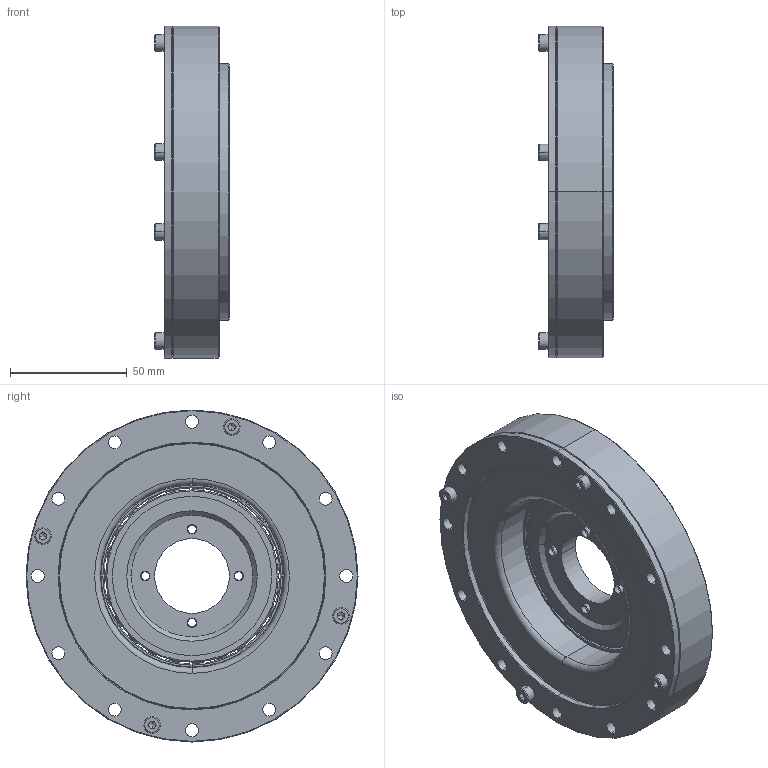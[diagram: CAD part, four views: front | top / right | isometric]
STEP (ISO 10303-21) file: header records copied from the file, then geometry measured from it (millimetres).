
FILE_DESCRIPTION((''),'2;1');
FILE_NAME('LHD-32-XXX-C-I_ASM','2022-11-11T',('700zh'),(''),'PRO/ENGINEER BY PARAMETRIC TECHNOLOGY CORPORATION, 2014200','PRO/ENGINEER BY PARAMETRIC TECHNOLOGY CORPORATION, 2014200','');
FILE_SCHEMA(('AUTOMOTIVE_DESIGN { 1 0 10303 214 1 1 1 1 }'));
Length unit declared in the file: millimetre
Products named in the file (16): DIN_912_M4_X_8_---_8C_DIN_912_M; LHD-32-XXX-P01; YF-32-I; 淝蹈_埴-2730; 唅蛌1_; RZC内外圈__ASM; 悵厥; RZC-32_ASM; DIN_912_M4_X_10_---_10C_DIN_912; LHD-32-XXX-P02; LHD-32-XXX-P03; 淝蹈_埴-12346; 淝蹈_埴-18587; LHD-32-XXX-P04_ASM; ASM0001_ASM; LHD-32-XXX-C-I_ASM
Assembly tree (23 placements, depth 5):
  LHD-32-XXX-C-I_ASM
    ASM0001_ASM
      DIN_912_M4_X_8_---_8C_DIN_912_M  x6
      LHD-32-XXX-P01
      YF-32-I
      RZC-32_ASM
        RZC内外圈__ASM
          淝蹈_埴-2730
          唅蛌1_
        悵厥
      DIN_912_M4_X_10_---_10C_DIN_912  x4
      LHD-32-XXX-P02
      LHD-32-XXX-P03
      LHD-32-XXX-P04_ASM
        淝蹈_埴-12346
        淝蹈_埴-18587
Bounding box: 31.9 x 142 x 142 mm (x, y, z)
Volume: 251431.7 mm3; surface area: 151581.3 mm2
Topology: 19 solids, 23 shells, 910 faces, 2434 edges, 1476 vertices
Faces by surface type: cylinder 378, plane 242, cone 120, sphere 92, torus 78
Entity records: 25254 total; most frequent: CARTESIAN_POINT 6039, DIRECTION 4345, ORIENTED_EDGE 3644, AXIS2_PLACEMENT_3D 1942, EDGE_CURVE 1830, VERTEX_POINT 1212, CIRCLE 1185, EDGE_LOOP 866
